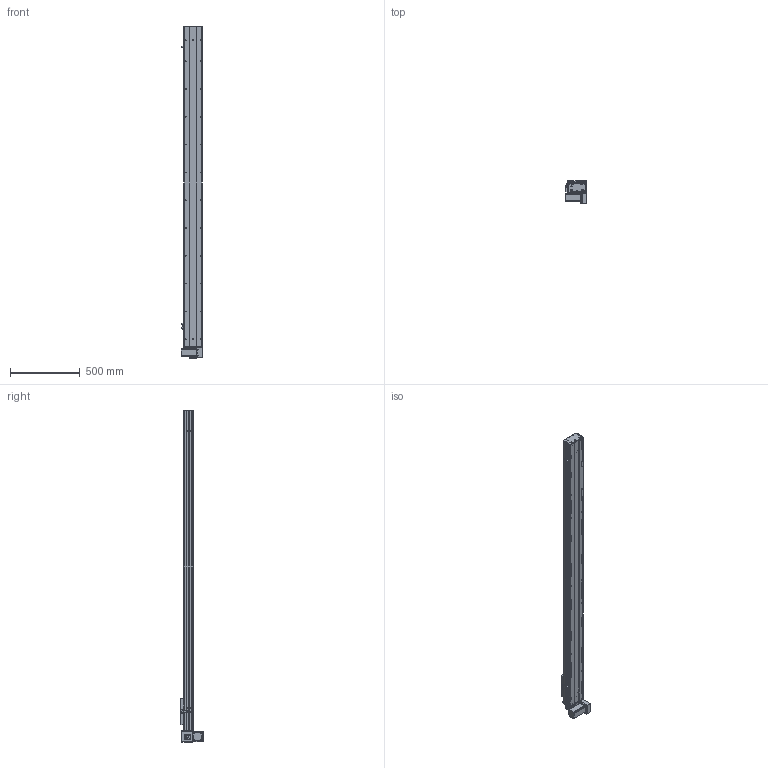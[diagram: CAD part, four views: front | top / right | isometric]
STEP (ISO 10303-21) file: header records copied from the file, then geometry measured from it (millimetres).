
FILE_DESCRIPTION (( 'STEP AP203' ), '1' );
FILE_NAME ('Y135CB-D90-S2000-BM-P400W.STEP', '2020-02-19T01:40:06', ( '微软用户' ), ( '微软中国' ), 'SwSTEP 2.0', 'SolidWorks 2017', '' );
FILE_SCHEMA (( 'CONFIG_CONTROL_DESIGN' ));
Length unit declared in the file: millimetre
Products named in the file (18): san松下电机400不带刹车----; 00B-俋欶BM--; 5CB --掛极耜裔啣-; C-詩湍揤踡え-陔; Y135CB-耜裔; 135CB--詩湍-CE; 135CB---遴掛极.-; Y100-135俋离換覜ん--; 35CB---喘謫眊楊擘啣; Y135C-陔俋离換覜結え-; 0B-埴倛裔啣; 5C--俋欶; 0B-源倛裔啣; Y135CB-D90-S2000-BM-P400W; C-雄赽釱--; 0B-萇儂楊擘啣; Y10B-耜蚾蟀諉啣----; Y10B--々湍喘謫眊--666
Assembly tree (21 placements, depth 2):
  Y135CB-D90-S2000-BM-P400W
    Y135CB-耜裔
    135CB---遴掛极.-
    35CB---喘謫眊楊擘啣
    0B-埴倛裔啣
    0B-源倛裔啣
    0B-萇儂楊擘啣
    san松下电机400不带刹车----
    5CB --掛极耜裔啣-  x2
    C-詩湍揤踡え-陔  x2
    135CB--詩湍-CE
    Y100-135俋离換覜ん--  x3
    Y135C-陔俋离換覜結え-
    5C--俋欶
    C-雄赽釱--
    Y10B--々湍喘謫眊--666
    00B-俋欶BM--
    Y10B-耜蚾蟀諉啣----
Bounding box: 157 x 163.3 x 2388 mm (x, y, z)
Volume: 6983363.9 mm3; surface area: 2758742.2 mm2
Topology: 21 solids, 21 shells, 965 faces, 2617 edges, 1734 vertices
Faces by surface type: cylinder 493, plane 456, cone 16
Entity records: 30359 total; most frequent: DIRECTION 5045, CARTESIAN_POINT 5032, ORIENTED_EDGE 4710, EDGE_CURVE 2355, AXIS2_PLACEMENT_3D 1847, VERTEX_POINT 1562, LINE 1351, VECTOR 1351
